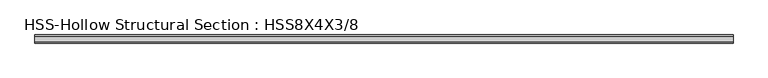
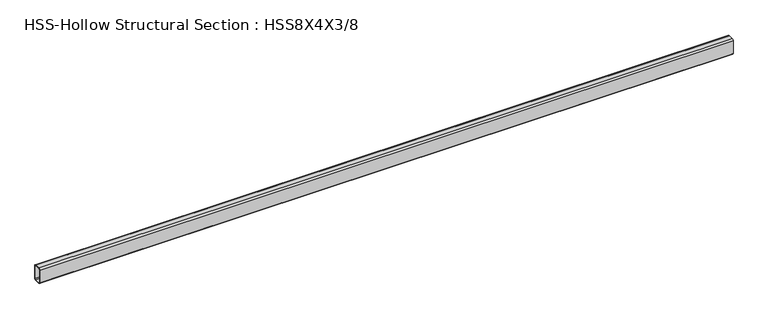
"""IFC4 building model written with IfcOpenShell, lengths in millimetres: beam geometry, HSS-Hollow Structural Section : HSS8X4X3/8."""

from ifc_helpers import new_model, si_unit, point, frame, frame_2d, origin, place, context, project, spatial, polyline, circle_curve, trimmed, segment, composite_curve, outline, extrude, source, transform, mapped, element, save


def hss_hollow_structural_section_hss8x4x3_8_b920de6b(model_context):
    return source(origin(), model_context, "Body", "SweptSolid", [
        extrude(outline(composite_curve([segment(polyline([(50.8, 83.8708), (50.8, -83.8708)]), True, "CONTINUOUS"), segment(trimmed(circle_curve(frame_2d((33.0708, -83.8708)), 17.7292), [point((50.8, -83.8708))], [point((33.0708, -101.6))], False, "CARTESIAN"), True, "CONTINUOUS"), segment(polyline([(33.0708, -101.6), (-33.0708, -101.6)]), True, "CONTINUOUS"), segment(trimmed(circle_curve(frame_2d((-33.0708, -83.8708)), 17.7292), [point((-33.0708, -101.6))], [point((-50.8, -83.8708))], False, "CARTESIAN"), True, "CONTINUOUS"), segment(polyline([(-50.8, -83.8708), (-50.8, 83.8708)]), True, "CONTINUOUS"), segment(trimmed(circle_curve(frame_2d((-33.0708, 83.8708)), 17.7292), [point((-50.8, 83.8708))], [point((-33.0708, 101.6))], False, "CARTESIAN"), True, "CONTINUOUS"), segment(polyline([(-33.0708, 101.6), (33.0708, 101.6)]), True, "CONTINUOUS"), segment(trimmed(circle_curve(frame_2d((33.0708, 83.8708)), 17.7292), [point((33.0708, 101.6))], [point((50.8, 83.8708))], False, "CARTESIAN"), True, "CONTINUOUS")], self_intersect=False), holes=[composite_curve([segment(trimmed(circle_curve(frame_2d((-33.0708, 83.8708)), 8.8646), [point((-33.0708, 92.7354))], [point((-41.9354, 83.8708))], True, "CARTESIAN"), True, "CONTINUOUS"), segment(polyline([(-41.9354, 83.8708), (-41.9354, -83.8708)]), True, "CONTINUOUS"), segment(trimmed(circle_curve(frame_2d((-33.0708, -83.8708)), 8.8646), [point((-41.9354, -83.8708))], [point((-33.0708, -92.7354))], True, "CARTESIAN"), True, "CONTINUOUS"), segment(polyline([(-33.0708, -92.7354), (33.0708, -92.7354)]), True, "CONTINUOUS"), segment(trimmed(circle_curve(frame_2d((33.0708, -83.8708)), 8.8646), [point((33.0708, -92.7354))], [point((41.9354, -83.8708))], True, "CARTESIAN"), True, "CONTINUOUS"), segment(polyline([(41.9354, -83.8708), (41.9354, 83.8708)]), True, "CONTINUOUS"), segment(trimmed(circle_curve(frame_2d((33.0708, 83.8708)), 8.8646), [point((41.9354, 83.8708))], [point((33.0708, 92.7354))], True, "CARTESIAN"), True, "CONTINUOUS"), segment(polyline([(33.0708, 92.7354), (-33.0708, 92.7354)]), True, "CONTINUOUS")], self_intersect=False)]), frame((-4360.8514757, 0.0, 0.0), z_axis=(1.0, 0.0, 0.0), x_axis=(0.0, 1.0, 0.0)), (0.0, 0.0, 1.0), 8712.2373991),
    ])


if __name__ == "__main__":
    model = new_model("IFC4")
    model_context = context("Model", 3, world=origin())
    ifc_project = project(units=[si_unit("LENGTHUNIT", "METRE", prefix="MILLI")], contexts=[model_context])
    site = spatial("IfcSite", under=ifc_project)
    building = spatial("IfcBuilding", under=site)
    placement = place(None, origin())
    hss_hollow_structural_section_hss8x4x3_8_shape = hss_hollow_structural_section_hss8x4x3_8_b920de6b(model_context)
    element("IfcBeam", 1, ObjectType="HSS-Hollow Structural Section : HSS8X4X3/8", at=placement, inside=building, context=model_context, shape_type="MappedRepresentation", body=[
        mapped(hss_hollow_structural_section_hss8x4x3_8_shape, transform((0.0, 0.0, 0.0), x_axis=(1.0, 0.0, 0.0), y_axis=(0.0, 1.0, 0.0), z_axis=(0.0, 0.0, 1.0))),
    ])
    save(model, "model.ifc")
